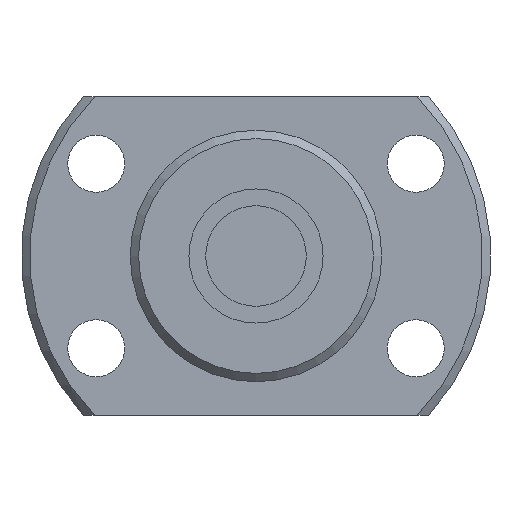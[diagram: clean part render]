
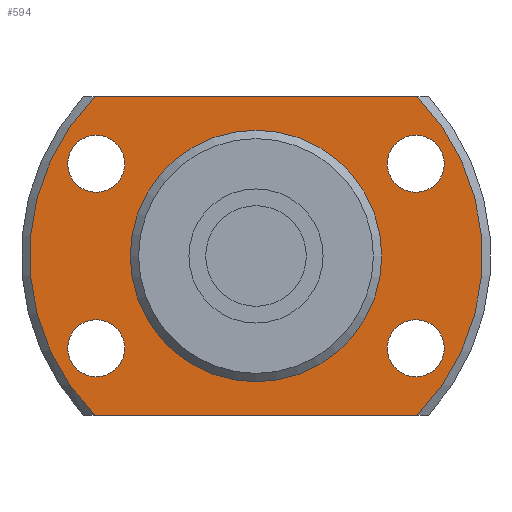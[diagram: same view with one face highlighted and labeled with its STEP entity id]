
A CAD part, left-side view. The second image highlights one B-rep face of the part: STEP entity #594.
In plain terms, the highlighted planar face has unit normal (-1, 0, 0) as drawn and (1, 0, 0) by its records, which use the part's own axes.
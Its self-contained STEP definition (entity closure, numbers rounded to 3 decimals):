
#80=CIRCLE('',#673,13.5);
#95=CIRCLE('',#697,7.3);
#96=CIRCLE('',#699,13.5);
#97=CIRCLE('',#700,1.7);
#98=CIRCLE('',#701,1.7);
#99=CIRCLE('',#702,1.7);
#100=CIRCLE('',#703,1.7);
#193=ORIENTED_EDGE('',*,*,#292,.T.);
#194=ORIENTED_EDGE('',*,*,#270,.T.);
#195=ORIENTED_EDGE('',*,*,#293,.T.);
#196=ORIENTED_EDGE('',*,*,#294,.T.);
#197=ORIENTED_EDGE('',*,*,#295,.F.);
#198=ORIENTED_EDGE('',*,*,#296,.F.);
#199=ORIENTED_EDGE('',*,*,#297,.F.);
#200=ORIENTED_EDGE('',*,*,#298,.F.);
#201=ORIENTED_EDGE('',*,*,#291,.F.);
#270=EDGE_CURVE('',#330,#332,#80,.T.);
#291=EDGE_CURVE('',#351,#351,#95,.T.);
#292=EDGE_CURVE('',#352,#330,#374,.T.);
#293=EDGE_CURVE('',#332,#353,#375,.T.);
#294=EDGE_CURVE('',#353,#352,#96,.T.);
#295=EDGE_CURVE('',#354,#354,#97,.T.);
#296=EDGE_CURVE('',#355,#355,#98,.T.);
#297=EDGE_CURVE('',#356,#356,#99,.T.);
#298=EDGE_CURVE('',#357,#357,#100,.T.);
#330=VERTEX_POINT('',#986);
#332=VERTEX_POINT('',#993);
#351=VERTEX_POINT('',#1049);
#352=VERTEX_POINT('',#1052);
#353=VERTEX_POINT('',#1054);
#354=VERTEX_POINT('',#1057);
#355=VERTEX_POINT('',#1059);
#356=VERTEX_POINT('',#1061);
#357=VERTEX_POINT('',#1063);
#374=LINE('',#1051,#392);
#375=LINE('',#1053,#393);
#392=VECTOR('',#869,1000.);
#393=VECTOR('',#870,1000.);
#451=EDGE_LOOP('',(#193,#194,#195,#196));
#452=EDGE_LOOP('',(#197));
#453=EDGE_LOOP('',(#198));
#454=EDGE_LOOP('',(#199));
#455=EDGE_LOOP('',(#200));
#456=EDGE_LOOP('',(#201));
#525=FACE_BOUND('',#451,.T.);
#526=FACE_BOUND('',#452,.T.);
#527=FACE_BOUND('',#453,.T.);
#528=FACE_BOUND('',#454,.T.);
#529=FACE_BOUND('',#455,.T.);
#530=FACE_BOUND('',#456,.T.);
#560=PLANE('',#698);
#594=ADVANCED_FACE('',(#525,#526,#527,#528,#529,#530),#560,.T.);
#673=AXIS2_PLACEMENT_3D('',#994,#813,#814);
#697=AXIS2_PLACEMENT_3D('',#1048,#865,#866);
#698=AXIS2_PLACEMENT_3D('',#1050,#867,#868);
#699=AXIS2_PLACEMENT_3D('',#1055,#871,#872);
#700=AXIS2_PLACEMENT_3D('',#1056,#873,#874);
#701=AXIS2_PLACEMENT_3D('',#1058,#875,#876);
#702=AXIS2_PLACEMENT_3D('',#1060,#877,#878);
#703=AXIS2_PLACEMENT_3D('',#1062,#879,#880);
#813=DIRECTION('',(1.,0.,0.));
#814=DIRECTION('',(0.,0.,-1.));
#865=DIRECTION('',(1.,0.,0.));
#866=DIRECTION('',(0.,0.,-1.));
#867=DIRECTION('',(1.,0.,0.));
#868=DIRECTION('',(0.,0.,-1.));
#869=DIRECTION('',(0.,-1.,0.));
#870=DIRECTION('',(0.,1.,0.));
#871=DIRECTION('',(1.,0.,0.));
#872=DIRECTION('',(0.,0.,-1.));
#873=DIRECTION('',(1.,0.,0.));
#874=DIRECTION('',(0.,0.,-1.));
#875=DIRECTION('',(1.,0.,0.));
#876=DIRECTION('',(0.,0.,-1.));
#877=DIRECTION('',(1.,0.,0.));
#878=DIRECTION('',(0.,0.,-1.));
#879=DIRECTION('',(1.,0.,0.));
#880=DIRECTION('',(0.,0.,-1.));
#986=CARTESIAN_POINT('',(4.,-9.592,9.5));
#993=CARTESIAN_POINT('',(4.,-9.592,-9.5));
#994=CARTESIAN_POINT('',(4.,0.,0.));
#1048=CARTESIAN_POINT('',(4.,0.,0.));
#1049=CARTESIAN_POINT('',(4.,0.,-7.3));
#1050=CARTESIAN_POINT('',(4.,7.3,0.));
#1051=CARTESIAN_POINT('',(4.,14.,9.5));
#1052=CARTESIAN_POINT('',(4.,9.592,9.5));
#1053=CARTESIAN_POINT('',(4.,-14.,-9.5));
#1054=CARTESIAN_POINT('',(4.,9.592,-9.5));
#1055=CARTESIAN_POINT('',(4.,0.,0.));
#1056=CARTESIAN_POINT('',(4.,9.526,5.5));
#1057=CARTESIAN_POINT('',(4.,9.526,3.8));
#1058=CARTESIAN_POINT('',(4.,-9.526,5.5));
#1059=CARTESIAN_POINT('',(4.,-9.526,3.8));
#1060=CARTESIAN_POINT('',(4.,-9.526,-5.5));
#1061=CARTESIAN_POINT('',(4.,-9.526,-7.2));
#1062=CARTESIAN_POINT('',(4.,9.526,-5.5));
#1063=CARTESIAN_POINT('',(4.,9.526,-7.2));
